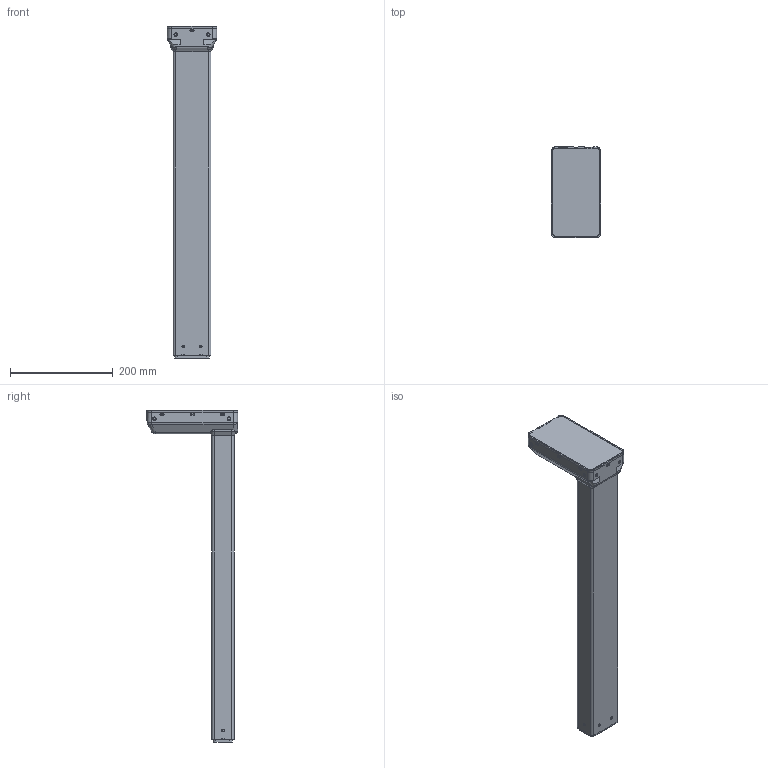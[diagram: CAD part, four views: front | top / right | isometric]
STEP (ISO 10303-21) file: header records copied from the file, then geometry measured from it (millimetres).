
FILE_DESCRIPTION((''),'2;1');
FILE_NAME('DL15_IC_SLAVE_ASM','2016-04-19T',('bs'),(''),'CREO PARAMETRIC BY PTC INC, 2015080','CREO PARAMETRIC BY PTC INC, 2015080','');
FILE_SCHEMA(('CONFIG_CONTROL_DESIGN'));
Length unit declared in the file: millimetre
Products named in the file (3): SLAVE_MOTORHUS_DL15IC_1ASM; DL15_IN; DL15_IC_SLAVE_ASM
Assembly tree (2 placements, depth 2):
  DL15_IC_SLAVE_ASM
    SLAVE_MOTORHUS_DL15IC_1ASM
    DL15_IN
Bounding box: 96.5 x 178.6 x 645 mm (x, y, z)
Volume: 4038281.4 mm3; surface area: 321656.7 mm2
Topology: 2 solids, 2 shells, 885 faces, 2356 edges, 1499 vertices
Faces by surface type: plane 444, cylinder 343, torus 44, bspline 32, sphere 14, cone 8
Entity records: 36290 total; most frequent: CARTESIAN_POINT 8826, ORIENTED_EDGE 4684, DIRECTION 4389, EDGE_CURVE 2342, AXIS2_PLACEMENT_3D 1516, VERTEX_POINT 1499, VECTOR 1357, LINE 1357
